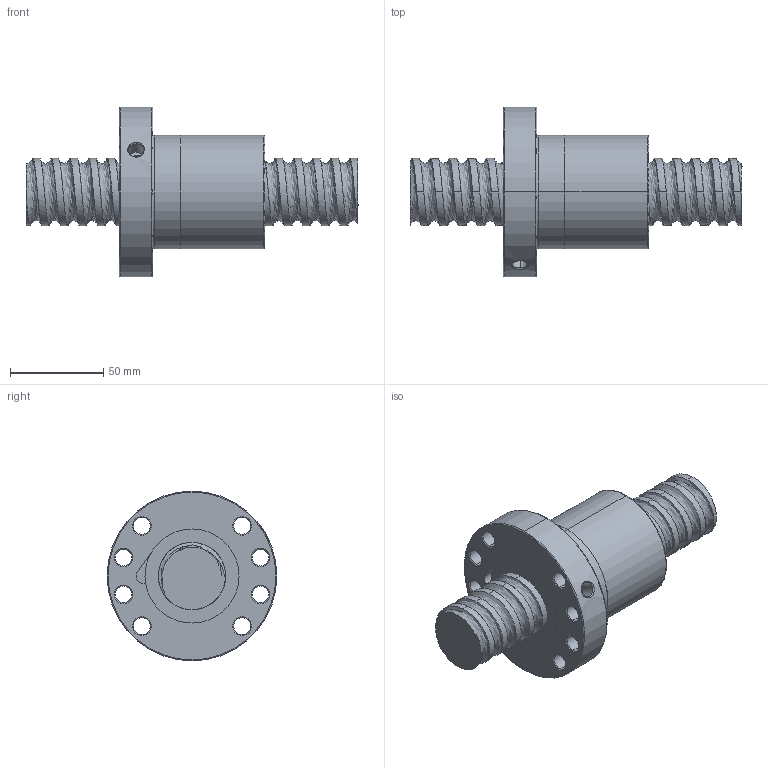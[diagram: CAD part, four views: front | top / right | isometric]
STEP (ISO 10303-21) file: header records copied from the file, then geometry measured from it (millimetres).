
FILE_DESCRIPTION (( 'STEP AP214' ), '1' );
FILE_NAME ('FSDC03610T5-F-A.STEP', '2010-06-25T12:00:46', ( 'XPAUTO' ), ( 'XPAUTO' ), 'SwSTEP 2.0', 'SolidWorks 2007', '' );
FILE_SCHEMA (( 'AUTOMOTIVE_DESIGN' ));
Length unit declared in the file: millimetre
Products named in the file (3): FSDC03610T5-F-A.sldasm-Part-2_預設; FSDC03610T5-F-A.sldasm-Part-1_預設; FSDC03610T5-F-A
Assembly tree (2 placements, depth 2):
  FSDC03610T5-F-A
    FSDC03610T5-F-A.sldasm-Part-2_預設
    FSDC03610T5-F-A.sldasm-Part-1_預設
Bounding box: 178 x 91 x 91 mm (x, y, z)
Volume: 360597.3 mm3; surface area: 65943.1 mm2
Topology: 2 solids, 2 shells, 137 faces, 341 edges, 213 vertices
Faces by surface type: cylinder 78, cone 32, plane 16, torus 6, bspline 5
Entity records: 26312 total; most frequent: CARTESIAN_POINT 23028, ORIENTED_EDGE 682, DIRECTION 649, EDGE_CURVE 341, AXIS2_PLACEMENT_3D 266, VERTEX_POINT 213, EDGE_LOOP 162, FACE_OUTER_BOUND 137
